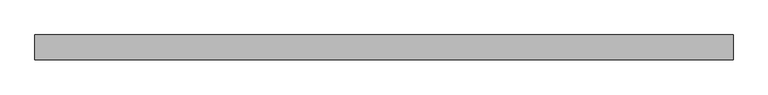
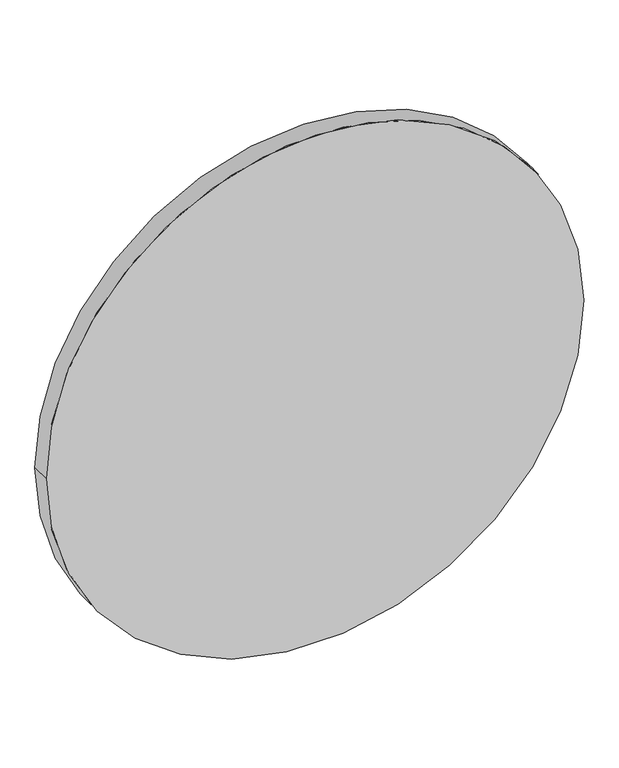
"""IFC4 building model written with IfcOpenShell, lengths in millimetres: proxy geometry, FOUNDATION^TABLE 2_42 ROUND-WORKSURFACE."""

from ifc_helpers import new_model, si_unit, point, frame, origin, origin_2d, place, context, project, spatial, circle_curve, trimmed, segment, composite_curve, outline, extrude, source, transform, mapped, element, save


def generic_models_88f99271(model_context):
    return source(origin(), model_context, "Body", "SweptSolid", [
        extrude(outline(composite_curve([segment(trimmed(circle_curve(origin_2d(), 533.4), [point((0.0, 533.4))], [point((0.0, -533.4))], False, "CARTESIAN"), True, "CONTINUOUS"), segment(trimmed(circle_curve(origin_2d(), 533.4), [point((0.0, -533.4))], [point((0.0, 533.4))], False, "CARTESIAN"), True, "CONTINUOUS")], self_intersect=False)), frame((0.0, 0.0, 0.0), z_axis=(0.0, 1.0, 0.0), x_axis=(0.0, 0.0, 1.0)), (0.0, 0.0, 1.0), 38.1),
    ])


if __name__ == "__main__":
    model = new_model("IFC4")
    model_context = context("Model", 3, world=origin())
    ifc_project = project(units=[si_unit("LENGTHUNIT", "METRE", prefix="MILLI")], contexts=[model_context])
    site = spatial("IfcSite", under=ifc_project)
    building = spatial("IfcBuilding", under=site)
    placement = place(None, origin())
    generic_models_shape = generic_models_88f99271(model_context)
    element("IfcBuildingElementProxy", 1, Name="FOUNDATION^TABLE 2_42 ROUND-WORKSURFACE", ObjectType="FOUNDATION^TABLE 2_42 ROUND-WORKSURFACE", at=placement, inside=building, context=model_context, shape_type="MappedRepresentation", body=[
        mapped(generic_models_shape, transform((0.0, 0.0, 0.0), x_axis=(1.0, 0.0, 0.0), y_axis=(0.0, 1.0, 0.0), z_axis=(0.0, 0.0, 1.0))),
    ])
    save(model, "model.ifc")
